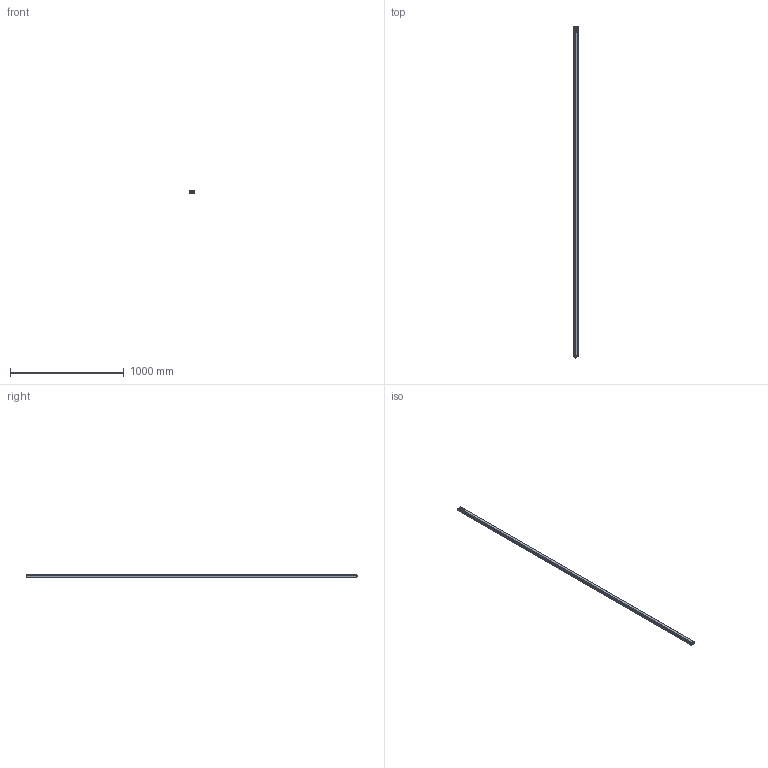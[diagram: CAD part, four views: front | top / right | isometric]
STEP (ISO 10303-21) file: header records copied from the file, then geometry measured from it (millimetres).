
FILE_DESCRIPTION(/* description */ (''),/* implementation_level */ '2;1');
FILE_NAME(/* name */ 'C:\Users\andre\SynologyDrive\Optoscan\Libreria Componenti\00 - Barriere\Barriera sorgente\Argo_2880_TX.stp',/* time_stamp */ '2021-04-23T12:46:09+02:00',/* author */ ('andre'),/* organization */ (''),/* preprocessor_version */ 'ST-DEVELOPER v18',/* originating_system */ 'Autodesk Inventor 2020',/* authorisation */ '');
FILE_SCHEMA (('AUTOMOTIVE_DESIGN { 1 0 10303 214 3 1 1 }'));
Length unit declared in the file: millimetre
Products named in the file (1): Argo_2880_TX
Bounding box: 40.5 x 2913.3 x 20.75 mm (x, y, z)
Volume: 571835.9 mm3; surface area: 756004.4 mm2
Topology: 1 solids, 1 shells, 680 faces, 1867 edges, 1193 vertices
Faces by surface type: plane 317, cylinder 191, bspline 94, torus 64, cone 8, sphere 6
Full cylindrical faces by diameter (mm): 1 x4, 2.5 x4, 3 x4, 3.5 x4, 5.5 x4, 8 x1, 10.5 x2, 11.75 x9, 15.7 x1, 17.5 x1
Entity records: 30188 total; most frequent: CARTESIAN_POINT 12578, ORIENTED_EDGE 3718, DIRECTION 3299, EDGE_CURVE 1859, VERTEX_POINT 1193, AXIS2_PLACEMENT_3D 1137, LINE 1025, VECTOR 1025
